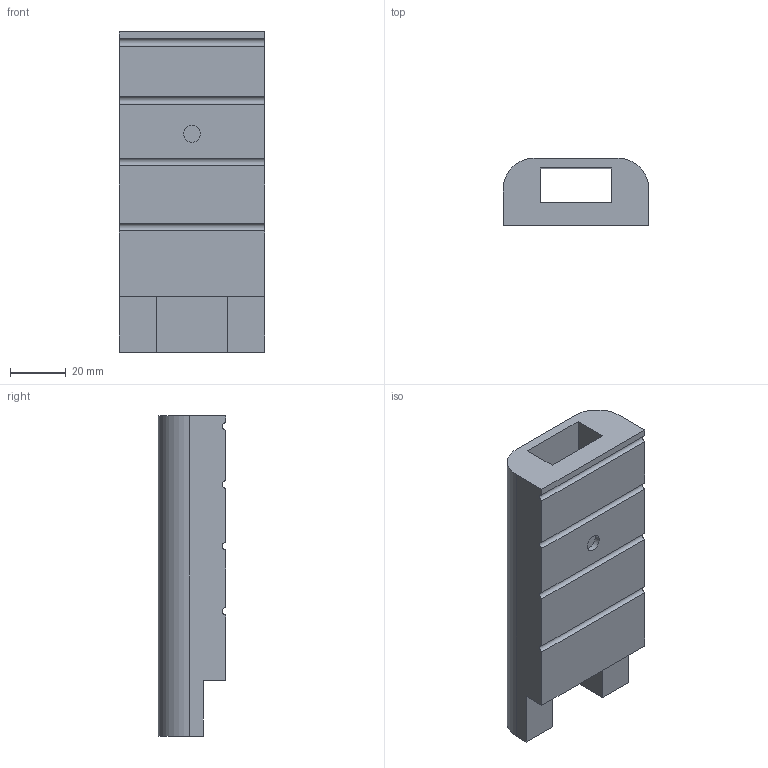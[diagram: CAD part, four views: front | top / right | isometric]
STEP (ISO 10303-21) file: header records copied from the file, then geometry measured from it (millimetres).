
FILE_DESCRIPTION(('STEP AP203'), '1');
FILE_NAME('ëàä1', '', ('UNSPECIFIED'), ('UNSPECIFIED'), 'ASCON STEP Converter 1.3', 'ASCON Math Kernel', '');
FILE_SCHEMA(('CONFIG_CONTROL_DESIGN'));
Length unit declared in the file: millimetre
Bounding box: 52 x 24 x 114.58 mm (x, y, z)
Volume: 91513.7 mm3; surface area: 25739.4 mm2
Topology: 1 solids, 1 shells, 25 faces, 67 edges, 44 vertices
Faces by surface type: plane 18, cylinder 7
Full cylindrical faces by diameter (mm): 6 x1
Entity records: 1022 total; most frequent: CARTESIAN_POINT 136, DIRECTION 132, ORIENTED_EDGE 132, EDGE_CURVE 66, LINE 52, VECTOR 52, VERTEX_POINT 44, AXIS2_PLACEMENT_3D 40
